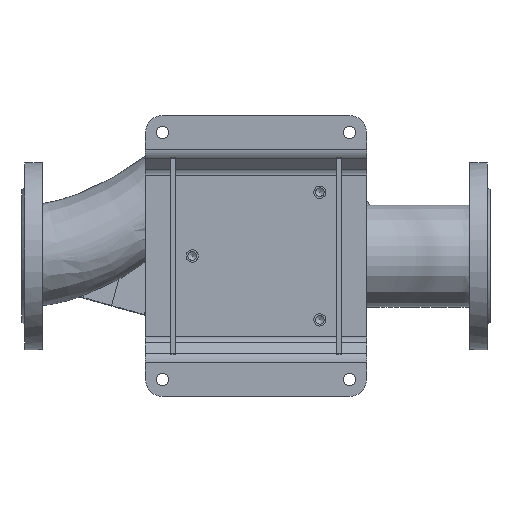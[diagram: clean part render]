
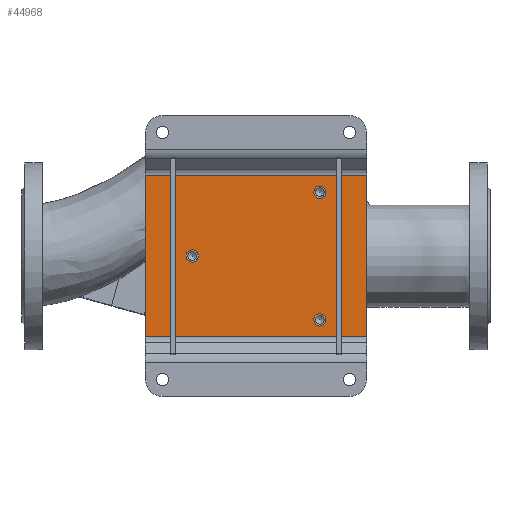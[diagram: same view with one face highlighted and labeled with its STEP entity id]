
A CAD part, top view. The second image highlights one B-rep face of the part: STEP entity #44968.
In plain terms, the highlighted planar face has unit normal (0, 0, 1) as drawn and (0, -1, 0) by its records, which use the part's own axes.
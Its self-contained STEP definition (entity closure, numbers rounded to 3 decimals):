
#97 = DIRECTION ( 'NONE',  ( 0., -1., 0. ) ) ;
#1056 = EDGE_CURVE ( 'NONE', #11404, #55003, #52693, .T. ) ;
#1552 = CARTESIAN_POINT ( 'NONE',  ( 75., -5., 75. ) ) ;
#1599 = DIRECTION ( 'NONE',  ( 0., 0., -1. ) ) ;
#1975 = DIRECTION ( 'NONE',  ( 0., -1., 0. ) ) ;
#2646 = ORIENTED_EDGE ( 'NONE', *, *, #84299, .F. ) ;
#2756 = CARTESIAN_POINT ( 'NONE',  ( 75., -5., 67.75 ) ) ;
#2764 = ORIENTED_EDGE ( 'NONE', *, *, #9330, .F. ) ;
#4680 = DIRECTION ( 'NONE',  ( 0., -1., 0. ) ) ;
#5748 = VECTOR ( 'NONE', #1599, 1000. ) ;
#6576 = CARTESIAN_POINT ( 'NONE',  ( -95., -5., 130. ) ) ;
#7703 = EDGE_LOOP ( 'NONE', ( #2646, #70088, #2764, #57342 ) ) ;
#8012 = AXIS2_PLACEMENT_3D ( 'NONE', #41693, #97, #68741 ) ;
#9330 = EDGE_CURVE ( 'NONE', #55003, #81401, #62149, .T. ) ;
#10970 = CIRCLE ( 'NONE', #73005, 7.25 ) ;
#11404 = VERTEX_POINT ( 'NONE', #47937 ) ;
#15424 = FACE_BOUND ( 'NONE', #23673, .T. ) ;
#15873 = PLANE ( 'NONE',  #8012 ) ;
#21919 = DIRECTION ( 'NONE',  ( 0., 0., 1. ) ) ;
#22195 = FACE_BOUND ( 'NONE', #30698, .T. ) ;
#22647 = FACE_BOUND ( 'NONE', #64325, .T. ) ;
#22862 = EDGE_CURVE ( 'NONE', #32455, #32455, #42617, .T. ) ;
#23673 = EDGE_LOOP ( 'NONE', ( #33406 ) ) ;
#26365 = CARTESIAN_POINT ( 'NONE',  ( 0., -5., -75. ) ) ;
#28408 = EDGE_CURVE ( 'NONE', #81401, #51814, #33247, .T. ) ;
#29540 = DIRECTION ( 'NONE',  ( 0., 0., -1. ) ) ;
#30698 = EDGE_LOOP ( 'NONE', ( #81324 ) ) ;
#32455 = VERTEX_POINT ( 'NONE', #52806 ) ;
#33247 = LINE ( 'NONE', #39178, #77551 ) ;
#33406 = ORIENTED_EDGE ( 'NONE', *, *, #22862, .F. ) ;
#34737 = CARTESIAN_POINT ( 'NONE',  ( 95., -5., 130. ) ) ;
#34899 = VERTEX_POINT ( 'NONE', #56106 ) ;
#37142 = ORIENTED_EDGE ( 'NONE', *, *, #39853, .F. ) ;
#39178 = CARTESIAN_POINT ( 'NONE',  ( -95., -5., 130. ) ) ;
#39853 = EDGE_CURVE ( 'NONE', #34899, #34899, #84083, .T. ) ;
#41693 = CARTESIAN_POINT ( 'NONE',  ( 0., -5., 0. ) ) ;
#42617 = CIRCLE ( 'NONE', #54134, 7.25 ) ;
#44968 = ADVANCED_FACE ( 'NONE', ( #22195, #15424, #22647, #61973 ), #15873, .T. ) ;
#45167 = AXIS2_PLACEMENT_3D ( 'NONE', #86615, #45493, #73011 ) ;
#45493 = DIRECTION ( 'NONE',  ( 0., -1., 0. ) ) ;
#46236 = VECTOR ( 'NONE', #66660, 1000. ) ;
#47937 = CARTESIAN_POINT ( 'NONE',  ( 95., -5., -130. ) ) ;
#48154 = CARTESIAN_POINT ( 'NONE',  ( 95., -5., 130. ) ) ;
#51814 = VERTEX_POINT ( 'NONE', #34737 ) ;
#52693 = LINE ( 'NONE', #59464, #46236 ) ;
#52806 = CARTESIAN_POINT ( 'NONE',  ( 0., -5., -82.25 ) ) ;
#54134 = AXIS2_PLACEMENT_3D ( 'NONE', #26365, #4680, #81458 ) ;
#55003 = VERTEX_POINT ( 'NONE', #85353 ) ;
#56106 = CARTESIAN_POINT ( 'NONE',  ( -75., -5., 67.75 ) ) ;
#57342 = ORIENTED_EDGE ( 'NONE', *, *, #1056, .F. ) ;
#59464 = CARTESIAN_POINT ( 'NONE',  ( -95., -5., -130. ) ) ;
#59622 = EDGE_CURVE ( 'NONE', #85917, #85917, #10970, .T. ) ;
#61233 = DIRECTION ( 'NONE',  ( 1., 0., 0. ) ) ;
#61973 = FACE_OUTER_BOUND ( 'NONE', #7703, .T. ) ;
#62149 = LINE ( 'NONE', #6576, #86705 ) ;
#64325 = EDGE_LOOP ( 'NONE', ( #37142 ) ) ;
#66660 = DIRECTION ( 'NONE',  ( -1., 0., 0. ) ) ;
#68741 = DIRECTION ( 'NONE',  ( 0., 0., -1. ) ) ;
#70088 = ORIENTED_EDGE ( 'NONE', *, *, #28408, .F. ) ;
#73005 = AXIS2_PLACEMENT_3D ( 'NONE', #1552, #1975, #29540 ) ;
#73011 = DIRECTION ( 'NONE',  ( 0., 0., -1. ) ) ;
#73906 = CARTESIAN_POINT ( 'NONE',  ( -95., -5., 130. ) ) ;
#77551 = VECTOR ( 'NONE', #61233, 1000. ) ;
#81324 = ORIENTED_EDGE ( 'NONE', *, *, #59622, .F. ) ;
#81401 = VERTEX_POINT ( 'NONE', #73906 ) ;
#81458 = DIRECTION ( 'NONE',  ( 0., 0., -1. ) ) ;
#82023 = LINE ( 'NONE', #48154, #5748 ) ;
#84083 = CIRCLE ( 'NONE', #45167, 7.25 ) ;
#84299 = EDGE_CURVE ( 'NONE', #51814, #11404, #82023, .T. ) ;
#85353 = CARTESIAN_POINT ( 'NONE',  ( -95., -5., -130. ) ) ;
#85917 = VERTEX_POINT ( 'NONE', #2756 ) ;
#86615 = CARTESIAN_POINT ( 'NONE',  ( -75., -5., 75. ) ) ;
#86705 = VECTOR ( 'NONE', #21919, 1000. ) ;
